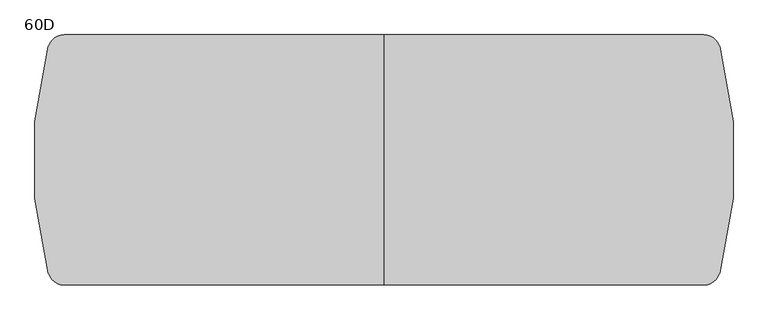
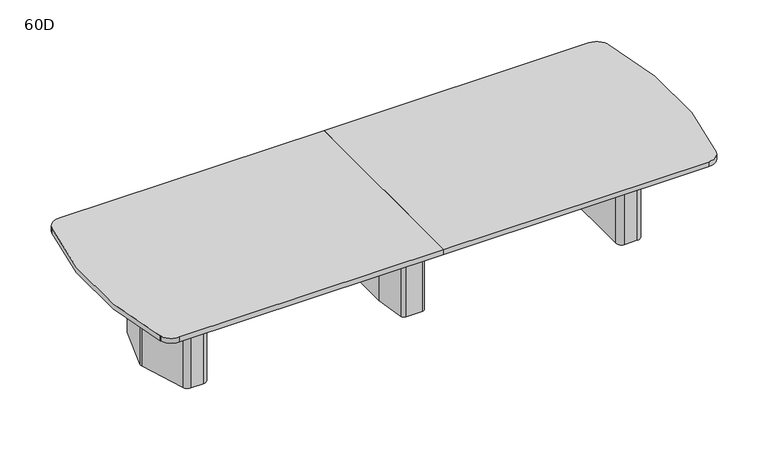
"""IFC4 building model written with IfcOpenShell, lengths in millimetres: furniture geometry, Coalesse_AM_Table_Conference_ETable2_SoftRadiused_14ft_ThreeBase : 60D."""

from ifc_helpers import new_model, si_unit, point, frame, frame_2d, origin, origin_with_axes, place, context, project, spatial, polyline, circle_curve, trimmed, segment, composite_curve, outline, extrude, source, transform, mapped, element, save
from ifc_brep_helpers import plane_surface, cylinder_surface, revolved_surface, advanced_brep


def furniture_60d_54ae3cd7(model_context):
    return source(origin(), model_context, "Body", "SolidModel", [
        advanced_brep(
        [(61.0357815, 381.0, 698.5), (-61.0357815, 381.0, 698.5), (-86.1885994, 359.1349332, 698.5), (-117.2278179, 138.2753661, 698.5), (-117.475, 134.740433, 698.5), (-117.475, -134.7404196, 698.5), (-117.2278463, -138.2751502, 698.5), (-86.1904395, -359.1347306, 698.5), (-61.0375932, -381.0, 698.5), (61.0375932, -381.0, 698.5), (86.1904395, -359.1347306, 698.5), (117.2278463, -138.2751502, 698.5), (117.475, -134.7404196, 698.5), (117.475, 134.740433, 698.5), (117.2278179, 138.2753661, 698.5), (86.1885994, 359.1349332, 698.5), (25.4, 314.325, 698.5), (50.8, 288.925, 698.5), (50.8, -288.925, 698.5), (25.4, -314.325, 698.5), (-25.4, -314.325, 698.5), (-50.8, -288.925, 698.5), (-50.8, 288.925, 698.5), (-25.4, 314.325, 698.5), (61.0357815, 381.0, 3.175), (86.1885994, 359.1349332, 3.175), (117.2278179, 138.2753661, 3.175), (117.475, 134.740433, 3.175), (117.475, -134.7404196, 3.175), (117.2278463, -138.2751502, 3.175), (86.1904395, -359.1347306, 3.175), (61.0375932, -381.0, 3.175), (-61.0375932, -381.0, 3.175), (-86.1904395, -359.1347306, 3.175), (-117.2278463, -138.2751502, 3.175), (-117.475, -134.7404196, 3.175), (-117.475, 134.740433, 3.175), (-117.2278179, 138.2753661, 3.175), (-86.1885994, 359.1349332, 3.175), (-61.0357815, 381.0, 3.175), (25.4, 327.025, 3.175), (-25.4, 327.025, 3.175), (-63.5, 288.925, 3.175), (-63.5, -288.925, 3.175), (-25.4, -327.025, 3.175), (25.4, -327.025, 3.175), (63.5, -288.925, 3.175), (63.5, 288.925, 3.175), (25.4, 314.325, 3.175), (50.8, 288.925, 3.175), (50.8, -288.925, 3.175), (25.4, -314.325, 3.175), (-25.4, -314.325, 3.175), (-50.8, -288.925, 3.175), (-50.8, 288.925, 3.175), (-25.4, 314.325, 3.175), (25.4, 327.025, 0.0), (63.5, 288.925, 0.0), (63.5, -288.925, 0.0), (25.4, -327.025, 0.0), (-25.4, -327.025, 0.0), (-63.5, -288.925, 0.0), (-63.5, 288.925, 0.0), (-25.4, 327.025, 0.0)],
        [
            (0, 1),
            (1, 2, circle_curve(frame((-61.0357815, 355.6, 698.5), z_axis=(0.0, 0.0, 1.0), x_axis=(1.0, 0.0, 0.0)), 25.4)),
            (2, 3),
            (3, 4, circle_curve(frame((-92.075, 134.740433, 698.5), z_axis=(0.0, 0.0, 1.0), x_axis=(1.0, 0.0, 0.0)), 25.4)),
            (4, 5),
            (5, 6, circle_curve(frame((-92.075, -134.7404196, 698.5), z_axis=(0.0, 0.0, 1.0), x_axis=(1.0, 0.0, 0.0)), 25.4)),
            (6, 7),
            (7, 8, circle_curve(frame((-61.0375932, -355.6, 698.5), z_axis=(0.0, 0.0, 1.0), x_axis=(1.0, 0.0, 0.0)), 25.4)),
            (8, 9),
            (9, 10, circle_curve(frame((61.0375932, -355.6, 698.5), z_axis=(0.0, 0.0, 1.0), x_axis=(1.0, 0.0, 0.0)), 25.4)),
            (10, 11),
            (11, 12, circle_curve(frame((92.075, -134.7404196, 698.5), z_axis=(0.0, 0.0, 1.0), x_axis=(1.0, 0.0, 0.0)), 25.4)),
            (12, 13),
            (13, 14, circle_curve(frame((92.075, 134.740433, 698.5), z_axis=(0.0, 0.0, 1.0), x_axis=(1.0, 0.0, 0.0)), 25.4)),
            (14, 15),
            (15, 0, circle_curve(frame((61.0357815, 355.6, 698.5), z_axis=(0.0, 0.0, 1.0), x_axis=(1.0, 0.0, 0.0)), 25.4)),
            (16, 17, circle_curve(frame((25.4, 288.925, 698.5), z_axis=(0.0, 0.0, -1.0), x_axis=(1.0, 0.0, 0.0)), 25.4)),
            (17, 18),
            (18, 19, circle_curve(frame((25.4, -288.925, 698.5), z_axis=(0.0, 0.0, -1.0), x_axis=(1.0, 0.0, 0.0)), 25.4)),
            (19, 20),
            (20, 21, circle_curve(frame((-25.4, -288.925, 698.5), z_axis=(0.0, 0.0, -1.0), x_axis=(1.0, 0.0, 0.0)), 25.4)),
            (21, 22),
            (22, 23, circle_curve(frame((-25.4, 288.925, 698.5), z_axis=(0.0, 0.0, -1.0), x_axis=(1.0, 0.0, 0.0)), 25.4)),
            (23, 16),
            (24, 25, circle_curve(frame((61.0357815, 355.6, 3.175), z_axis=(0.0, 0.0, -1.0), x_axis=(1.0, 0.0, 0.0)), 25.4)),
            (25, 26),
            (26, 27, circle_curve(frame((92.075, 134.740433, 3.175), z_axis=(0.0, 0.0, -1.0), x_axis=(1.0, 0.0, 0.0)), 25.4)),
            (27, 28),
            (28, 29, circle_curve(frame((92.075, -134.7404196, 3.175), z_axis=(0.0, 0.0, -1.0), x_axis=(1.0, 0.0, 0.0)), 25.4)),
            (29, 30),
            (30, 31, circle_curve(frame((61.0375932, -355.6, 3.175), z_axis=(0.0, 0.0, -1.0), x_axis=(1.0, 0.0, 0.0)), 25.4)),
            (31, 32),
            (32, 33, circle_curve(frame((-61.0375932, -355.6, 3.175), z_axis=(0.0, 0.0, -1.0), x_axis=(1.0, 0.0, 0.0)), 25.4)),
            (33, 34),
            (34, 35, circle_curve(frame((-92.075, -134.7404196, 3.175), z_axis=(0.0, 0.0, -1.0), x_axis=(1.0, 0.0, 0.0)), 25.4)),
            (35, 36),
            (36, 37, circle_curve(frame((-92.075, 134.740433, 3.175), z_axis=(0.0, 0.0, -1.0), x_axis=(1.0, 0.0, 0.0)), 25.4)),
            (37, 38),
            (38, 39, circle_curve(frame((-61.0357815, 355.6, 3.175), z_axis=(0.0, 0.0, -1.0), x_axis=(1.0, 0.0, 0.0)), 25.4)),
            (39, 24),
            (40, 41),
            (41, 42, circle_curve(frame((-25.4, 288.925, 3.175), z_axis=(0.0, 0.0, 1.0), x_axis=(1.0, 0.0, 0.0)), 38.1)),
            (42, 43),
            (43, 44, circle_curve(frame((-25.4, -288.925, 3.175), z_axis=(0.0, 0.0, 1.0), x_axis=(1.0, 0.0, 0.0)), 38.1)),
            (44, 45),
            (45, 46, circle_curve(frame((25.4, -288.925, 3.175), z_axis=(0.0, 0.0, 1.0), x_axis=(1.0, 0.0, 0.0)), 38.1)),
            (46, 47),
            (47, 40, circle_curve(frame((25.4, 288.925, 3.175), z_axis=(0.0, 0.0, 1.0), x_axis=(1.0, 0.0, 0.0)), 38.1)),
            (0, 24),
            (39, 1),
            (38, 2),
            (37, 3),
            (36, 4),
            (35, 5),
            (34, 6),
            (33, 7),
            (32, 8),
            (31, 9),
            (30, 10),
            (29, 11),
            (28, 12),
            (27, 13),
            (26, 14),
            (25, 15),
            (16, 48),
            (48, 49, circle_curve(frame((25.4, 288.925, 3.175), z_axis=(0.0, 0.0, -1.0), x_axis=(1.0, 0.0, 0.0)), 25.4)),
            (49, 17),
            (49, 50),
            (50, 18),
            (50, 51, circle_curve(frame((25.4, -288.925, 3.175), z_axis=(0.0, 0.0, -1.0), x_axis=(1.0, 0.0, 0.0)), 25.4)),
            (51, 19),
            (51, 52),
            (52, 20),
            (52, 53, circle_curve(frame((-25.4, -288.925, 3.175), z_axis=(0.0, 0.0, -1.0), x_axis=(1.0, 0.0, 0.0)), 25.4)),
            (53, 21),
            (53, 54),
            (54, 22),
            (54, 55, circle_curve(frame((-25.4, 288.925, 3.175), z_axis=(0.0, 0.0, -1.0), x_axis=(1.0, 0.0, 0.0)), 25.4)),
            (55, 23),
            (55, 48),
            (56, 57, circle_curve(frame((25.4, 288.925, 0.0), z_axis=(0.0, 0.0, -1.0), x_axis=(1.0, 0.0, 0.0)), 38.1)),
            (57, 58),
            (58, 59, circle_curve(frame((25.4, -288.925, 0.0), z_axis=(0.0, 0.0, -1.0), x_axis=(1.0, 0.0, 0.0)), 38.1)),
            (59, 60),
            (60, 61, circle_curve(frame((-25.4, -288.925, 0.0), z_axis=(0.0, 0.0, -1.0), x_axis=(1.0, 0.0, 0.0)), 38.1)),
            (61, 62),
            (62, 63, circle_curve(frame((-25.4, 288.925, 0.0), z_axis=(0.0, 0.0, -1.0), x_axis=(1.0, 0.0, 0.0)), 38.1)),
            (63, 56),
            (63, 41),
            (40, 56),
            (62, 42),
            (61, 43),
            (60, 44),
            (59, 45),
            (58, 46),
            (57, 47),
        ],
        [
            plane_surface(frame((-1524.0, 381.0, 698.5), z_axis=(0.0, 0.0, 1.0), x_axis=(-1.0, 0.0, 0.0))),
            plane_surface(frame((-1524.0, 381.0, 3.175), z_axis=(0.0, 0.0, -1.0), x_axis=(1.0, 0.0, 0.0))),
            plane_surface(frame((61.0357815, 381.0, 698.5), z_axis=(0.0, 1.0, 0.0), x_axis=(0.0, 0.0, -1.0))),
            cylinder_surface(frame((-61.0357815, 355.6, 3.175), z_axis=(0.0, 0.0, 1.0), x_axis=(1.0, 0.0, 0.0)), 25.4),
            plane_surface(frame((-86.1885994, 359.1349332, 698.5), z_axis=(-0.9902684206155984, 0.13917059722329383, 0.0), x_axis=(0.0, 0.0, -1.0))),
            cylinder_surface(frame((-92.075, 134.740433, 3.175), z_axis=(0.0, 0.0, 1.0), x_axis=(1.0, 0.0, 0.0)), 25.4),
            plane_surface(frame((-117.475, 134.740433, 698.5), z_axis=(-1.0, 0.0, 0.0), x_axis=(0.0, 0.0, -1.0))),
            cylinder_surface(frame((-92.075, -134.7404196, 3.175), z_axis=(0.0, 0.0, 1.0), x_axis=(1.0, 0.0, 0.0)), 25.4),
            plane_surface(frame((-117.2278463, -138.2751502, 698.5), z_axis=(-0.9902695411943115, -0.1391626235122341, 0.0), x_axis=(0.0, 0.0, -1.0))),
            cylinder_surface(frame((-61.0375932, -355.6, 3.175), z_axis=(0.0, 0.0, 1.0), x_axis=(1.0, 0.0, 0.0)), 25.4),
            plane_surface(frame((-61.0375932, -381.0, 698.5), z_axis=(0.0, -1.0, 0.0), x_axis=(0.0, 0.0, -1.0))),
            cylinder_surface(frame((61.0375932, -355.6, 3.175), z_axis=(0.0, 0.0, 1.0), x_axis=(1.0, 0.0, 0.0)), 25.4),
            plane_surface(frame((86.1904395, -359.1347306, 698.5), z_axis=(0.9902695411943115, -0.1391626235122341, 0.0), x_axis=(0.0, 0.0, -1.0))),
            cylinder_surface(frame((92.075, -134.7404196, 3.175), z_axis=(0.0, 0.0, 1.0), x_axis=(1.0, 0.0, 0.0)), 25.4),
            plane_surface(frame((117.475, -134.7404196, 698.5), z_axis=(1.0, 0.0, 0.0), x_axis=(0.0, 0.0, -1.0))),
            cylinder_surface(frame((92.075, 134.740433, 3.175), z_axis=(0.0, 0.0, 1.0), x_axis=(1.0, 0.0, 0.0)), 25.4),
            plane_surface(frame((117.2278179, 138.2753661, 698.5), z_axis=(0.9902684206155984, 0.13917059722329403, 0.0), x_axis=(0.0, 0.0, -1.0))),
            cylinder_surface(frame((61.0357815, 355.6, 3.175), z_axis=(0.0, 0.0, 1.0), x_axis=(1.0, 0.0, 0.0)), 25.4),
            revolved_surface(polyline([(50.8, 288.925, 3.175), (50.8, 288.925, 698.5)]), (25.4, 288.925, 0.0), (0.0, 0.0, -1.0)),
            plane_surface(frame((50.8, 288.925, 698.5), z_axis=(-1.0, 0.0, 0.0), x_axis=(0.0, 0.0, -1.0))),
            revolved_surface(polyline([(50.8, -288.925, 3.175), (50.8, -288.925, 698.5)]), (25.4, -288.925, 0.0), (0.0, 0.0, -1.0)),
            plane_surface(frame((25.4, -314.325, 698.5), z_axis=(0.0, 1.0, 0.0), x_axis=(0.0, 0.0, -1.0))),
            revolved_surface(polyline([(0.0, -288.925, 3.175), (0.0, -288.925, 698.5)]), (-25.4, -288.925, 0.0), (0.0, 0.0, -1.0)),
            plane_surface(frame((-50.8, -288.925, 698.5), z_axis=(1.0, 0.0, 0.0), x_axis=(0.0, 0.0, -1.0))),
            revolved_surface(polyline([(0.0, 288.925, 3.175), (0.0, 288.925, 698.5)]), (-25.4, 288.925, 0.0), (0.0, 0.0, -1.0)),
            plane_surface(frame((-25.4, 314.325, 698.5), z_axis=(0.0, -1.0, 0.0), x_axis=(0.0, 0.0, -1.0))),
            plane_surface(frame((-50.8, 327.025, 3.175), z_axis=(0.0, 0.0, 1.0), x_axis=(-1.0, 0.0, 0.0))),
            plane_surface(frame((-50.8, 327.025, 0.0), z_axis=(0.0, 0.0, -1.0), x_axis=(1.0, 0.0, 0.0))),
            plane_surface(frame((25.4, 327.025, 3.175), z_axis=(0.0, 1.0, 0.0), x_axis=(0.0, 0.0, -1.0))),
            cylinder_surface(frame((-25.4, 288.925, 0.0), z_axis=(0.0, 0.0, 1.0), x_axis=(1.0, 0.0, 0.0)), 38.1),
            plane_surface(frame((-63.5, 288.925, 3.175), z_axis=(-1.0, 0.0, 0.0), x_axis=(0.0, 0.0, -1.0))),
            cylinder_surface(frame((-25.4, -288.925, 0.0), z_axis=(0.0, 0.0, 1.0), x_axis=(1.0, 0.0, 0.0)), 38.1),
            plane_surface(frame((-25.4, -327.025, 3.175), z_axis=(0.0, -1.0, 0.0), x_axis=(0.0, 0.0, -1.0))),
            cylinder_surface(frame((25.4, -288.925, 0.0), z_axis=(0.0, 0.0, 1.0), x_axis=(1.0, 0.0, 0.0)), 38.1),
            plane_surface(frame((63.5, -288.925, 3.175), z_axis=(1.0, 0.0, 0.0), x_axis=(0.0, 0.0, -1.0))),
            cylinder_surface(frame((25.4, 288.925, 0.0), z_axis=(0.0, 0.0, 1.0), x_axis=(1.0, 0.0, 0.0)), 38.1),
        ],
        [
            (0, [[1, 2, 3, 4, 5, 6, 7, 8, 9, 10, 11, 12, 13, 14, 15, 16], [17, 18, 19, 20, 21, 22, 23, 24]]),
            (1, [[25, 26, 27, 28, 29, 30, 31, 32, 33, 34, 35, 36, 37, 38, 39, 40], [41, 42, 43, 44, 45, 46, 47, 48]]),
            (2, [[-1, 49, -40, 50]]),
            (3, [[-2, -50, -39, 51]]),
            (4, [[-3, -51, -38, 52]]),
            (5, [[-4, -52, -37, 53]]),
            (6, [[-5, -53, -36, 54]]),
            (7, [[-6, -54, -35, 55]]),
            (8, [[-7, -55, -34, 56]]),
            (9, [[-8, -56, -33, 57]]),
            (10, [[-9, -57, -32, 58]]),
            (11, [[-10, -58, -31, 59]]),
            (12, [[-11, -59, -30, 60]]),
            (13, [[-12, -60, -29, 61]]),
            (14, [[-13, -61, -28, 62]]),
            (15, [[-14, -62, -27, 63]]),
            (16, [[-15, -63, -26, 64]]),
            (17, [[-16, -64, -25, -49]]),
            (18, [[-17, 65, 66, 67]]),
            (19, [[-18, -67, 68, 69]]),
            (20, [[-19, -69, 70, 71]]),
            (21, [[-20, -71, 72, 73]]),
            (22, [[-21, -73, 74, 75]]),
            (23, [[-22, -75, 76, 77]]),
            (24, [[-23, -77, 78, 79]]),
            (25, [[-24, -79, 80, -65]]),
            (26, [[-66, -80, -78, -76, -74, -72, -70, -68]]),
            (27, [[81, 82, 83, 84, 85, 86, 87, 88]]),
            (28, [[-88, 89, -41, 90]]),
            (29, [[-87, 91, -42, -89]]),
            (30, [[-86, 92, -43, -91]]),
            (31, [[-85, 93, -44, -92]]),
            (32, [[-84, 94, -45, -93]]),
            (33, [[-83, 95, -46, -94]]),
            (34, [[-82, 96, -47, -95]]),
            (35, [[-81, -90, -48, -96]]),
        ],
    ),
        extrude(outline(composite_curve([segment(polyline([(1731.9625, 101.7236478), (1731.9625, -97.2761514)]), True, "CONTINUOUS"), segment(trimmed(circle_curve(frame_2d((1693.8625, -97.2761514)), 38.1), [point((1731.9625, -97.2761514))], [point((1730.1991129, -108.7330515))], False, "CARTESIAN"), True, "CONTINUOUS"), segment(polyline([(1730.1991129, -108.7330515), (1671.7745591, -294.0319001)]), True, "CONTINUOUS"), segment(trimmed(circle_curve(frame_2d((1635.4379462, -282.575)), 38.1), [point((1671.7745591, -294.0319001))], [point((1635.4379462, -320.675))], False, "CARTESIAN"), True, "CONTINUOUS"), segment(polyline([(1635.4379462, -320.675), (1568.45, -320.675)]), True, "CONTINUOUS"), segment(trimmed(circle_curve(frame_2d((1568.45, -282.575)), 38.1), [point((1568.45, -320.675))], [point((1530.35, -282.575))], False, "CARTESIAN"), True, "CONTINUOUS"), segment(polyline([(1530.35, -282.575), (1530.35, 282.575)]), True, "CONTINUOUS"), segment(trimmed(circle_curve(frame_2d((1568.45, 282.575)), 38.1), [point((1530.35, 282.575))], [point((1568.45, 320.675))], False, "CARTESIAN"), True, "CONTINUOUS"), segment(polyline([(1568.45, 320.675), (1639.1873998, 320.675)]), True, "CONTINUOUS"), segment(trimmed(circle_curve(frame_2d((1639.1873998, 282.575)), 38.1), [point((1639.1873998, 320.675))], [point((1675.6572049, 293.6005756))], False, "CARTESIAN"), True, "CONTINUOUS"), segment(polyline([(1675.6572049, 293.6005756), (1730.3323051, 112.7492234)]), True, "CONTINUOUS"), segment(trimmed(circle_curve(frame_2d((1693.8625, 101.7236478)), 38.1), [point((1730.3323051, 112.7492234))], [point((1731.9625, 101.7236478))], False, "CARTESIAN"), True, "CONTINUOUS")], self_intersect=False)), origin_with_axes(), (0.0, 0.0, 1.0), 3.175),
        extrude(outline(composite_curve([segment(polyline([(1552.575, 381.0), (1640.7221663, 381.0)]), True, "CONTINUOUS"), segment(trimmed(circle_curve(frame_2d((1640.7221663, 339.725)), 41.275), [point((1640.7221663, 381.0))], [point((1680.0868303, 352.1366418))], False, "CARTESIAN"), True, "CONTINUOUS"), segment(polyline([(1680.0868303, 352.1366418), (1787.2018053, 12.4116418)]), True, "CONTINUOUS"), segment(trimmed(circle_curve(frame_2d((1747.8371413, 0.0)), 41.275), [point((1787.2018053, 12.4116418))], [point((1787.2018053, -12.4116418))], False, "CARTESIAN"), True, "CONTINUOUS"), segment(polyline([(1787.2018053, -12.4116418), (1680.0868303, -352.1366418)]), True, "CONTINUOUS"), segment(trimmed(circle_curve(frame_2d((1640.7221663, -339.725)), 41.275), [point((1680.0868303, -352.1366418))], [point((1640.7221663, -381.0))], False, "CARTESIAN"), True, "CONTINUOUS"), segment(polyline([(1640.7221663, -381.0), (1546.225, -381.0)]), True, "CONTINUOUS"), segment(trimmed(circle_curve(frame_2d((1546.225, -339.725)), 41.275), [point((1546.225, -381.0))], [point((1504.95, -339.725))], False, "CARTESIAN"), True, "CONTINUOUS"), segment(polyline([(1504.95, -339.725), (1504.95, 333.375)]), True, "CONTINUOUS"), segment(trimmed(circle_curve(frame_2d((1552.575, 333.375)), 47.625), [point((1504.95, 333.375))], [point((1552.575, 381.0))], False, "CARTESIAN"), True, "CONTINUOUS")], self_intersect=False), holes=[composite_curve([segment(trimmed(circle_curve(frame_2d((1568.45, -282.575)), 25.4), [point((1543.05, -282.575))], [point((1568.45, -307.975))], True, "CARTESIAN"), True, "CONTINUOUS"), segment(polyline([(1568.45, -307.975), (1635.4379462, -307.975)]), True, "CONTINUOUS"), segment(trimmed(circle_curve(frame_2d((1635.4379462, -282.575)), 25.4), [point((1635.4379462, -307.975))], [point((1659.6623548, -290.2129334))], True, "CARTESIAN"), True, "CONTINUOUS"), segment(polyline([(1659.6623548, -290.2129334), (1718.0869086, -104.9140848)]), True, "CONTINUOUS"), segment(trimmed(circle_curve(frame_2d((1693.8625, -97.2761514)), 25.4), [point((1718.0869086, -104.9140848))], [point((1719.2625, -97.2761514))], True, "CARTESIAN"), True, "CONTINUOUS"), segment(polyline([(1719.2625, -97.2761514), (1719.2625, 101.7236478)]), True, "CONTINUOUS"), segment(trimmed(circle_curve(frame_2d((1693.8625, 101.7236478)), 25.4), [point((1719.2625, 101.7236478))], [point((1718.1757034, 109.0740316))], True, "CARTESIAN"), True, "CONTINUOUS"), segment(polyline([(1718.1757034, 109.0740316), (1663.5006032, 289.9253837)]), True, "CONTINUOUS"), segment(trimmed(circle_curve(frame_2d((1639.1873998, 282.575)), 25.4), [point((1663.5006032, 289.9253837))], [point((1639.1873998, 307.975))], True, "CARTESIAN"), True, "CONTINUOUS"), segment(polyline([(1639.1873998, 307.975), (1568.45, 307.975)]), True, "CONTINUOUS"), segment(trimmed(circle_curve(frame_2d((1568.45, 282.575)), 25.4), [point((1568.45, 307.975))], [point((1543.05, 282.575))], True, "CARTESIAN"), True, "CONTINUOUS"), segment(polyline([(1543.05, 282.575), (1543.05, -282.575)]), True, "CONTINUOUS")], self_intersect=False)]), frame((0.0, 0.0, 3.175), z_axis=(0.0, 0.0, 1.0), x_axis=(1.0, 0.0, 0.0)), (0.0, 0.0, 1.0), 695.325),
        extrude(outline(composite_curve([segment(trimmed(circle_curve(frame_2d((-1693.8625, 101.7236478)), 38.1), [point((-1731.9625, 101.7236478))], [point((-1730.3323051, 112.7492234))], False, "CARTESIAN"), True, "CONTINUOUS"), segment(polyline([(-1730.3323051, 112.7492234), (-1675.6572049, 293.6005756)]), True, "CONTINUOUS"), segment(trimmed(circle_curve(frame_2d((-1639.1873998, 282.575)), 38.1), [point((-1675.6572049, 293.6005756))], [point((-1639.1873998, 320.675))], False, "CARTESIAN"), True, "CONTINUOUS"), segment(polyline([(-1639.1873998, 320.675), (-1568.45, 320.675)]), True, "CONTINUOUS"), segment(trimmed(circle_curve(frame_2d((-1568.45, 282.575)), 38.1), [point((-1568.45, 320.675))], [point((-1530.35, 282.575))], False, "CARTESIAN"), True, "CONTINUOUS"), segment(polyline([(-1530.35, 282.575), (-1530.35, -282.575)]), True, "CONTINUOUS"), segment(trimmed(circle_curve(frame_2d((-1568.45, -282.575)), 38.1), [point((-1530.35, -282.575))], [point((-1568.45, -320.675))], False, "CARTESIAN"), True, "CONTINUOUS"), segment(polyline([(-1568.45, -320.675), (-1635.4379462, -320.675)]), True, "CONTINUOUS"), segment(trimmed(circle_curve(frame_2d((-1635.4379462, -282.575)), 38.1), [point((-1635.4379462, -320.675))], [point((-1671.7745591, -294.0319001))], False, "CARTESIAN"), True, "CONTINUOUS"), segment(polyline([(-1671.7745591, -294.0319001), (-1730.1991129, -108.7330515)]), True, "CONTINUOUS"), segment(trimmed(circle_curve(frame_2d((-1693.8625, -97.2761514)), 38.1), [point((-1730.1991129, -108.7330515))], [point((-1731.9625, -97.2761514))], False, "CARTESIAN"), True, "CONTINUOUS"), segment(polyline([(-1731.9625, -97.2761514), (-1731.9625, 101.7236478)]), True, "CONTINUOUS")], self_intersect=False)), origin_with_axes(), (0.0, 0.0, 1.0), 3.175),
        extrude(outline(composite_curve([segment(trimmed(circle_curve(frame_2d((-1552.575, 333.375)), 47.625), [point((-1552.575, 381.0))], [point((-1504.95, 333.375))], False, "CARTESIAN"), True, "CONTINUOUS"), segment(polyline([(-1504.95, 333.375), (-1504.95, -339.725)]), True, "CONTINUOUS"), segment(trimmed(circle_curve(frame_2d((-1546.225, -339.725)), 41.275), [point((-1504.95, -339.725))], [point((-1546.225, -381.0))], False, "CARTESIAN"), True, "CONTINUOUS"), segment(polyline([(-1546.225, -381.0), (-1640.7221663, -381.0)]), True, "CONTINUOUS"), segment(trimmed(circle_curve(frame_2d((-1640.7221663, -339.725)), 41.275), [point((-1640.7221663, -381.0))], [point((-1680.0868303, -352.1366418))], False, "CARTESIAN"), True, "CONTINUOUS"), segment(polyline([(-1680.0868303, -352.1366418), (-1787.2018053, -12.4116418)]), True, "CONTINUOUS"), segment(trimmed(circle_curve(frame_2d((-1747.8371413, 0.0)), 41.275), [point((-1787.2018053, -12.4116418))], [point((-1787.2018053, 12.4116418))], False, "CARTESIAN"), True, "CONTINUOUS"), segment(polyline([(-1787.2018053, 12.4116418), (-1680.0868303, 352.1366418)]), True, "CONTINUOUS"), segment(trimmed(circle_curve(frame_2d((-1640.7221663, 339.725)), 41.275), [point((-1680.0868303, 352.1366418))], [point((-1640.7221663, 381.0))], False, "CARTESIAN"), True, "CONTINUOUS"), segment(polyline([(-1640.7221663, 381.0), (-1552.575, 381.0)]), True, "CONTINUOUS")], self_intersect=False), holes=[composite_curve([segment(polyline([(-1543.05, -282.575), (-1543.05, 282.575)]), True, "CONTINUOUS"), segment(trimmed(circle_curve(frame_2d((-1568.45, 282.575)), 25.4), [point((-1543.05, 282.575))], [point((-1568.45, 307.975))], True, "CARTESIAN"), True, "CONTINUOUS"), segment(polyline([(-1568.45, 307.975), (-1639.1873998, 307.975)]), True, "CONTINUOUS"), segment(trimmed(circle_curve(frame_2d((-1639.1873998, 282.575)), 25.4), [point((-1639.1873998, 307.975))], [point((-1663.5006032, 289.9253837))], True, "CARTESIAN"), True, "CONTINUOUS"), segment(polyline([(-1663.5006032, 289.9253837), (-1718.1757034, 109.0740316)]), True, "CONTINUOUS"), segment(trimmed(circle_curve(frame_2d((-1693.8625, 101.7236478)), 25.4), [point((-1718.1757034, 109.0740316))], [point((-1719.2625, 101.7236478))], True, "CARTESIAN"), True, "CONTINUOUS"), segment(polyline([(-1719.2625, 101.7236478), (-1719.2625, -97.2761514)]), True, "CONTINUOUS"), segment(trimmed(circle_curve(frame_2d((-1693.8625, -97.2761514)), 25.4), [point((-1719.2625, -97.2761514))], [point((-1718.0869086, -104.9140848))], True, "CARTESIAN"), True, "CONTINUOUS"), segment(polyline([(-1718.0869086, -104.9140848), (-1659.6623548, -290.2129334)]), True, "CONTINUOUS"), segment(trimmed(circle_curve(frame_2d((-1635.4379462, -282.575)), 25.4), [point((-1659.6623548, -290.2129334))], [point((-1635.4379462, -307.975))], True, "CARTESIAN"), True, "CONTINUOUS"), segment(polyline([(-1635.4379462, -307.975), (-1568.45, -307.975)]), True, "CONTINUOUS"), segment(trimmed(circle_curve(frame_2d((-1568.45, -282.575)), 25.4), [point((-1568.45, -307.975))], [point((-1543.05, -282.575))], True, "CARTESIAN"), True, "CONTINUOUS")], self_intersect=False)]), frame((0.0, 0.0, 3.175), z_axis=(0.0, 0.0, 1.0), x_axis=(1.0, 0.0, 0.0)), (0.0, 0.0, 1.0), 695.325),
        extrude(outline(composite_curve([segment(trimmed(circle_curve(frame_2d((1944.4557965, 660.4)), 101.6), [point((1944.4557965, 762.0))], [point((2040.2453259, 694.2662966))], False, "CARTESIAN"), True, "CONTINUOUS"), segment(polyline([(2040.2453259, 694.2662966), (2040.9956256, 692.1441026)]), True, "CONTINUOUS"), segment(trimmed(circle_curve(frame_2d((-499.3157351, 0.0)), 2632.9157351), [point((2040.9956256, 692.1441026))], [point((2040.9956256, -692.1441026))], False, "CARTESIAN"), True, "CONTINUOUS"), segment(polyline([(2040.9956256, -692.1441026), (2040.2453259, -694.2662966)]), True, "CONTINUOUS"), segment(trimmed(circle_curve(frame_2d((1944.4557965, -660.4)), 101.6), [point((2040.2453259, -694.2662966))], [point((1944.4557965, -762.0))], False, "CARTESIAN"), True, "CONTINUOUS"), segment(polyline([(1944.4557965, -762.0), (0.0, -762.0), (0.0, 762.0), (1944.4557965, 762.0)]), True, "CONTINUOUS")], self_intersect=False)), frame((0.0, 0.0, 698.5), z_axis=(0.0, 0.0, 1.0), x_axis=(1.0, 0.0, 0.0)), (0.0, 0.0, 1.0), 38.1),
        extrude(outline(composite_curve([segment(polyline([(-1944.4557965, 762.0), (0.0, 762.0), (0.0, -762.0), (-1944.4557965, -762.0)]), True, "CONTINUOUS"), segment(trimmed(circle_curve(frame_2d((-1944.4557965, -660.4)), 101.6), [point((-1944.4557965, -762.0))], [point((-2040.2453259, -694.2662966))], False, "CARTESIAN"), True, "CONTINUOUS"), segment(polyline([(-2040.2453259, -694.2662966), (-2040.9956256, -692.1441026)]), True, "CONTINUOUS"), segment(trimmed(circle_curve(frame_2d((499.3157351, 0.0)), 2632.9157351), [point((-2040.9956256, -692.1441026))], [point((-2040.9956256, 692.1441026))], False, "CARTESIAN"), True, "CONTINUOUS"), segment(polyline([(-2040.9956256, 692.1441026), (-2040.2453259, 694.2662966)]), True, "CONTINUOUS"), segment(trimmed(circle_curve(frame_2d((-1944.4557965, 660.4)), 101.6), [point((-2040.2453259, 694.2662966))], [point((-1944.4557965, 762.0))], False, "CARTESIAN"), True, "CONTINUOUS")], self_intersect=False)), frame((0.0, 0.0, 698.5), z_axis=(0.0, 0.0, 1.0), x_axis=(1.0, 0.0, 0.0)), (0.0, 0.0, 1.0), 38.1),
        extrude(outline(polyline([(96.8375, 698.5), (103.1875, 698.5), (103.1875, 476.25), (-103.1875, 476.25), (-103.1875, 698.5), (-96.8375, 698.5), (-96.8375, 482.6), (96.8375, 482.6), (96.8375, 698.5)])), frame((-1504.95, 0.0, 0.0), z_axis=(1.0, 0.0, 0.0), x_axis=(0.0, 1.0, 0.0)), (0.0, 0.0, 1.0), 3009.9),
    ])


if __name__ == "__main__":
    model = new_model("IFC4")
    model_context = context("Model", 3, world=origin())
    ifc_project = project(units=[si_unit("LENGTHUNIT", "METRE", prefix="MILLI")], contexts=[model_context])
    site = spatial("IfcSite", under=ifc_project)
    building = spatial("IfcBuilding", under=site)
    placement = place(None, origin())
    furniture_60d_shape = furniture_60d_54ae3cd7(model_context)
    element("IfcFurniture", 1, ObjectType="Coalesse_AM_Table_Conference_ETable2_SoftRadiused_14ft_ThreeBase : 60D", at=placement, inside=building, context=model_context, shape_type="MappedRepresentation", body=[
        mapped(furniture_60d_shape, transform((0.0, 0.0, 0.0), x_axis=(1.0, 0.0, 0.0), y_axis=(0.0, 1.0, 0.0), z_axis=(0.0, 0.0, 1.0))),
    ])
    save(model, "model.ifc")
